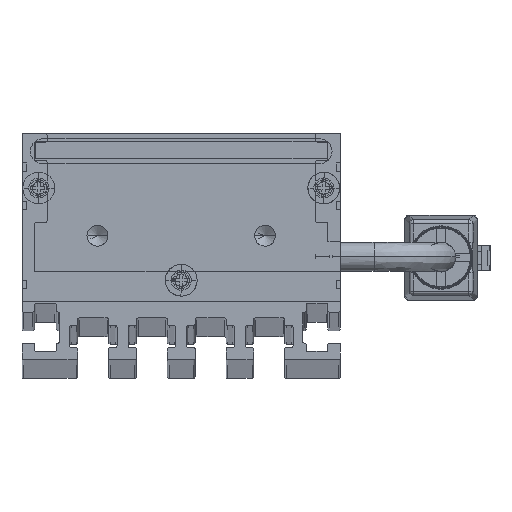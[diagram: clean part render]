
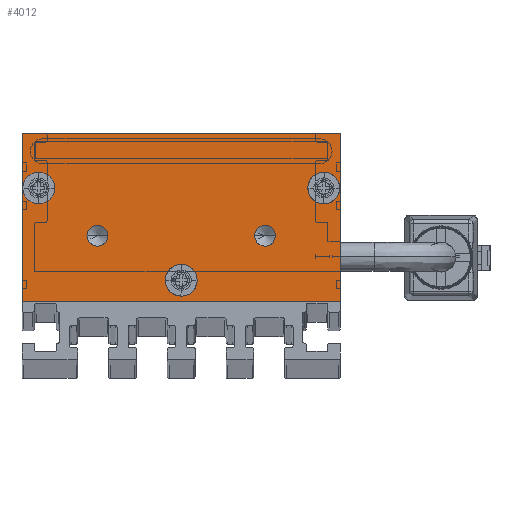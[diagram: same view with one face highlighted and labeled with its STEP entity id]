
A CAD part, top view. The second image highlights one B-rep face of the part: STEP entity #4012.
In plain terms, the highlighted planar face has unit normal (0, 0, 1) as drawn and (0, 0, -1) by its records, which use the part's own axes.
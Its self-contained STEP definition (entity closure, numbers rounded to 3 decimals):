
#7 = LINE ( 'NONE', #4076, #2608 ) ;
#112 = VECTOR ( 'NONE', #241, 1000. ) ;
#219 = ORIENTED_EDGE ( 'NONE', *, *, #7543, .F. ) ;
#241 = DIRECTION ( 'NONE',  ( 0., 1., 0. ) ) ;
#253 = CARTESIAN_POINT ( 'NONE',  ( -19., 20., -2.5 ) ) ;
#288 = CARTESIAN_POINT ( 'NONE',  ( -17., 13.5, -2.5 ) ) ;
#392 = AXIS2_PLACEMENT_3D ( 'NONE', #1954, #13023, #10535 ) ;
#482 = CARTESIAN_POINT ( 'NONE',  ( 8.75, 7.8, -2.5 ) ) ;
#912 = CARTESIAN_POINT ( 'NONE',  ( -11.25, 7.8, -2.5 ) ) ;
#997 = AXIS2_PLACEMENT_3D ( 'NONE', #9990, #4675, #1084 ) ;
#1084 = DIRECTION ( 'NONE',  ( -1., 0., 0. ) ) ;
#1096 = EDGE_CURVE ( 'NONE', #3489, #7477, #8265, .T. ) ;
#1427 = VERTEX_POINT ( 'NONE', #13493 ) ;
#1471 = CARTESIAN_POINT ( 'NONE',  ( -8.75, 7.8, -2.5 ) ) ;
#1595 = ORIENTED_EDGE ( 'NONE', *, *, #2870, .F. ) ;
#1638 = ORIENTED_EDGE ( 'NONE', *, *, #8450, .F. ) ;
#1784 = CARTESIAN_POINT ( 'NONE',  ( -19., 0., -2.5 ) ) ;
#1926 = EDGE_CURVE ( 'NONE', #6963, #7133, #12814, .T. ) ;
#1954 = CARTESIAN_POINT ( 'NONE',  ( 0., 0., -2.5 ) ) ;
#2001 = VERTEX_POINT ( 'NONE', #5178 ) ;
#2196 = CARTESIAN_POINT ( 'NONE',  ( -1.9, 2.5, -2.5 ) ) ;
#2374 = VERTEX_POINT ( 'NONE', #4417 ) ;
#2608 = VECTOR ( 'NONE', #3837, 1000. ) ;
#2769 = DIRECTION ( 'NONE',  ( -1., 0., 0. ) ) ;
#2779 = DIRECTION ( 'NONE',  ( -1., 0., 0. ) ) ;
#2870 = EDGE_CURVE ( 'NONE', #10759, #1427, #9379, .T. ) ;
#2965 = FACE_BOUND ( 'NONE', #9160, .T. ) ;
#3368 = AXIS2_PLACEMENT_3D ( 'NONE', #288, #6998, #11685 ) ;
#3489 = VERTEX_POINT ( 'NONE', #4072 ) ;
#3648 = ORIENTED_EDGE ( 'NONE', *, *, #7467, .F. ) ;
#3837 = DIRECTION ( 'NONE',  ( 1., 0., 0. ) ) ;
#4012 = ADVANCED_FACE ( 'NONE', ( #15580, #6879, #9446, #7041, #2965, #4368 ), #5543, .F. ) ;
#4072 = CARTESIAN_POINT ( 'NONE',  ( 15.1, 13.5, -2.5 ) ) ;
#4076 = CARTESIAN_POINT ( 'NONE',  ( -19., 0., -2.5 ) ) ;
#4174 = CIRCLE ( 'NONE', #997, 1.9 ) ;
#4269 = ORIENTED_EDGE ( 'NONE', *, *, #1926, .F. ) ;
#4368 = FACE_OUTER_BOUND ( 'NONE', #9401, .T. ) ;
#4417 = CARTESIAN_POINT ( 'NONE',  ( 19., 20., -2.5 ) ) ;
#4499 = CARTESIAN_POINT ( 'NONE',  ( 18.9, 13.5, -2.5 ) ) ;
#4675 = DIRECTION ( 'NONE',  ( 0., 0., -1. ) ) ;
#4677 = DIRECTION ( 'NONE',  ( 0., 0., -1. ) ) ;
#4999 = DIRECTION ( 'NONE',  ( 0., 0., -1. ) ) ;
#5054 = DIRECTION ( 'NONE',  ( -1., 0., 0. ) ) ;
#5178 = CARTESIAN_POINT ( 'NONE',  ( 19., 0., -2.5 ) ) ;
#5201 = EDGE_CURVE ( 'NONE', #2001, #2374, #15504, .T. ) ;
#5413 = DIRECTION ( 'NONE',  ( 0., 0., -1. ) ) ;
#5543 = PLANE ( 'NONE',  #392 ) ;
#5832 = DIRECTION ( 'NONE',  ( -1., 0., 0. ) ) ;
#5863 = CARTESIAN_POINT ( 'NONE',  ( 1.9, 2.5, -2.5 ) ) ;
#6192 = EDGE_CURVE ( 'NONE', #14672, #14288, #7178, .T. ) ;
#6287 = EDGE_LOOP ( 'NONE', ( #4269, #13540 ) ) ;
#6519 = EDGE_CURVE ( 'NONE', #7133, #6963, #13852, .T. ) ;
#6751 = VERTEX_POINT ( 'NONE', #1471 ) ;
#6842 = AXIS2_PLACEMENT_3D ( 'NONE', #11895, #9040, #9492 ) ;
#6879 = FACE_BOUND ( 'NONE', #6287, .T. ) ;
#6963 = VERTEX_POINT ( 'NONE', #2196 ) ;
#6998 = DIRECTION ( 'NONE',  ( 0., 0., -1. ) ) ;
#7041 = FACE_BOUND ( 'NONE', #7853, .T. ) ;
#7080 = AXIS2_PLACEMENT_3D ( 'NONE', #10146, #4999, #8830 ) ;
#7133 = VERTEX_POINT ( 'NONE', #5863 ) ;
#7165 = CIRCLE ( 'NONE', #8768, 1.25 ) ;
#7178 = LINE ( 'NONE', #13730, #15445 ) ;
#7349 = DIRECTION ( 'NONE',  ( 0., -1., 0. ) ) ;
#7467 = EDGE_CURVE ( 'NONE', #6751, #8890, #10304, .T. ) ;
#7477 = VERTEX_POINT ( 'NONE', #4499 ) ;
#7543 = EDGE_CURVE ( 'NONE', #7477, #3489, #4174, .T. ) ;
#7661 = CARTESIAN_POINT ( 'NONE',  ( 19., 20., -2.5 ) ) ;
#7692 = DIRECTION ( 'NONE',  ( 0., 0., -1. ) ) ;
#7777 = EDGE_CURVE ( 'NONE', #14288, #2001, #7, .T. ) ;
#7853 = EDGE_LOOP ( 'NONE', ( #9109, #8448 ) ) ;
#7870 = CARTESIAN_POINT ( 'NONE',  ( -19., 20., -2.5 ) ) ;
#8265 = CIRCLE ( 'NONE', #11980, 1.9 ) ;
#8386 = CIRCLE ( 'NONE', #16315, 1.25 ) ;
#8448 = ORIENTED_EDGE ( 'NONE', *, *, #9679, .F. ) ;
#8450 = EDGE_CURVE ( 'NONE', #8890, #6751, #8386, .T. ) ;
#8768 = AXIS2_PLACEMENT_3D ( 'NONE', #16052, #10760, #15801 ) ;
#8830 = DIRECTION ( 'NONE',  ( -1., 0., 0. ) ) ;
#8890 = VERTEX_POINT ( 'NONE', #912 ) ;
#9040 = DIRECTION ( 'NONE',  ( 0., 0., -1. ) ) ;
#9059 = EDGE_CURVE ( 'NONE', #13946, #15698, #12915, .T. ) ;
#9109 = ORIENTED_EDGE ( 'NONE', *, *, #9059, .F. ) ;
#9160 = EDGE_LOOP ( 'NONE', ( #1638, #3648 ) ) ;
#9166 = CARTESIAN_POINT ( 'NONE',  ( 0., 2.5, -2.5 ) ) ;
#9354 = ORIENTED_EDGE ( 'NONE', *, *, #11504, .F. ) ;
#9379 = CIRCLE ( 'NONE', #10186, 1.9 ) ;
#9401 = EDGE_LOOP ( 'NONE', ( #10851, #12444, #13508, #13696 ) ) ;
#9446 = FACE_BOUND ( 'NONE', #10750, .T. ) ;
#9492 = DIRECTION ( 'NONE',  ( -1., 0., 0. ) ) ;
#9679 = EDGE_CURVE ( 'NONE', #15698, #13946, #7165, .T. ) ;
#9824 = CARTESIAN_POINT ( 'NONE',  ( -15.1, 13.5, -2.5 ) ) ;
#9990 = CARTESIAN_POINT ( 'NONE',  ( 17., 13.5, -2.5 ) ) ;
#10117 = CARTESIAN_POINT ( 'NONE',  ( -10., 7.8, -2.5 ) ) ;
#10146 = CARTESIAN_POINT ( 'NONE',  ( 10., 7.8, -2.5 ) ) ;
#10186 = AXIS2_PLACEMENT_3D ( 'NONE', #13859, #12609, #5054 ) ;
#10304 = CIRCLE ( 'NONE', #6842, 1.25 ) ;
#10365 = ORIENTED_EDGE ( 'NONE', *, *, #1096, .F. ) ;
#10487 = DIRECTION ( 'NONE',  ( -1., 0., 0. ) ) ;
#10535 = DIRECTION ( 'NONE',  ( 1., 0., 0. ) ) ;
#10750 = EDGE_LOOP ( 'NONE', ( #9354, #1595 ) ) ;
#10759 = VERTEX_POINT ( 'NONE', #9824 ) ;
#10760 = DIRECTION ( 'NONE',  ( 0., 0., -1. ) ) ;
#10851 = ORIENTED_EDGE ( 'NONE', *, *, #6192, .F. ) ;
#10937 = AXIS2_PLACEMENT_3D ( 'NONE', #9166, #7692, #2769 ) ;
#11072 = VECTOR ( 'NONE', #2779, 1000. ) ;
#11504 = EDGE_CURVE ( 'NONE', #1427, #10759, #12112, .T. ) ;
#11545 = EDGE_CURVE ( 'NONE', #2374, #14672, #14159, .T. ) ;
#11685 = DIRECTION ( 'NONE',  ( -1., 0., 0. ) ) ;
#11895 = CARTESIAN_POINT ( 'NONE',  ( -10., 7.8, -2.5 ) ) ;
#11980 = AXIS2_PLACEMENT_3D ( 'NONE', #12223, #4677, #5832 ) ;
#12112 = CIRCLE ( 'NONE', #3368, 1.9 ) ;
#12223 = CARTESIAN_POINT ( 'NONE',  ( 17., 13.5, -2.5 ) ) ;
#12444 = ORIENTED_EDGE ( 'NONE', *, *, #11545, .F. ) ;
#12514 = AXIS2_PLACEMENT_3D ( 'NONE', #12975, #5413, #10487 ) ;
#12609 = DIRECTION ( 'NONE',  ( 0., 0., -1. ) ) ;
#12814 = CIRCLE ( 'NONE', #10937, 1.9 ) ;
#12915 = CIRCLE ( 'NONE', #7080, 1.25 ) ;
#12975 = CARTESIAN_POINT ( 'NONE',  ( 0., 2.5, -2.5 ) ) ;
#13023 = DIRECTION ( 'NONE',  ( 0., 0., 1. ) ) ;
#13461 = EDGE_LOOP ( 'NONE', ( #10365, #219 ) ) ;
#13493 = CARTESIAN_POINT ( 'NONE',  ( -18.9, 13.5, -2.5 ) ) ;
#13508 = ORIENTED_EDGE ( 'NONE', *, *, #5201, .F. ) ;
#13521 = CARTESIAN_POINT ( 'NONE',  ( 11.25, 7.8, -2.5 ) ) ;
#13540 = ORIENTED_EDGE ( 'NONE', *, *, #6519, .F. ) ;
#13696 = ORIENTED_EDGE ( 'NONE', *, *, #7777, .F. ) ;
#13730 = CARTESIAN_POINT ( 'NONE',  ( -19., 20., -2.5 ) ) ;
#13852 = CIRCLE ( 'NONE', #12514, 1.9 ) ;
#13859 = CARTESIAN_POINT ( 'NONE',  ( -17., 13.5, -2.5 ) ) ;
#13946 = VERTEX_POINT ( 'NONE', #482 ) ;
#14022 = DIRECTION ( 'NONE',  ( -1., 0., 0. ) ) ;
#14159 = LINE ( 'NONE', #7870, #11072 ) ;
#14288 = VERTEX_POINT ( 'NONE', #1784 ) ;
#14672 = VERTEX_POINT ( 'NONE', #253 ) ;
#15445 = VECTOR ( 'NONE', #7349, 1000. ) ;
#15504 = LINE ( 'NONE', #7661, #112 ) ;
#15580 = FACE_BOUND ( 'NONE', #13461, .T. ) ;
#15698 = VERTEX_POINT ( 'NONE', #13521 ) ;
#15801 = DIRECTION ( 'NONE',  ( -1., 0., 0. ) ) ;
#16052 = CARTESIAN_POINT ( 'NONE',  ( 10., 7.8, -2.5 ) ) ;
#16315 = AXIS2_PLACEMENT_3D ( 'NONE', #10117, #16320, #14022 ) ;
#16320 = DIRECTION ( 'NONE',  ( 0., 0., -1. ) ) ;
